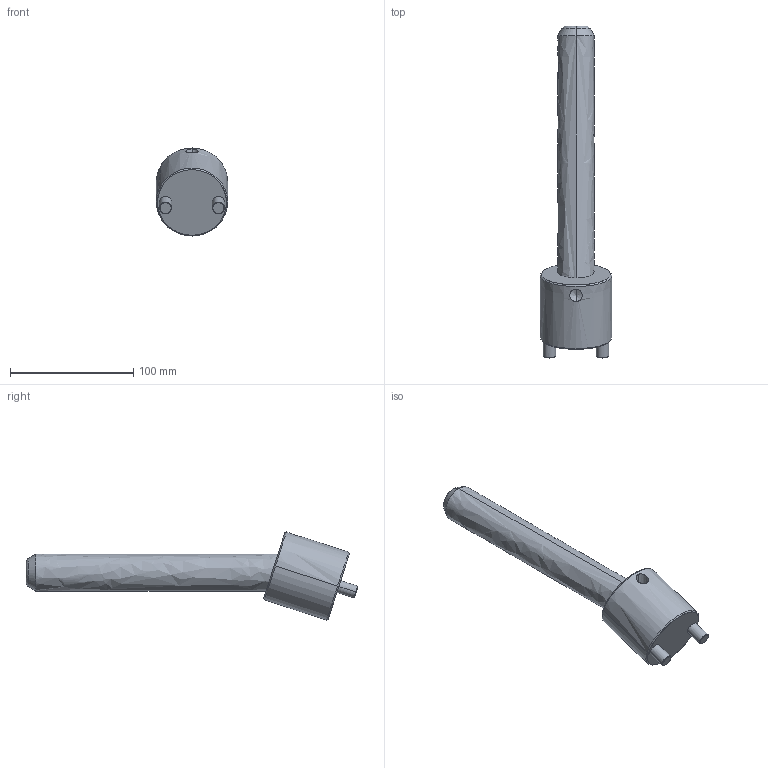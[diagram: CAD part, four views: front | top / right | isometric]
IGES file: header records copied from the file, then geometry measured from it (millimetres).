
Start section: START RECORD GO HERE.
Global section: file name: CI1830200.igs; native system: DASSAULT SYSTEMES CATIA V5 R20 - www.3ds.com; preprocessor: CATIA Version 5 Release 20 ; author: r.borello; organization: CFTORINO; date: 20190624.094811; units: millimetre
Bounding box: 58 x 269.82 x 71.54 mm (x, y, z)
Surface area: 44900 mm2 (no closed solid volume)
Topology: 0 solids, 0 shells, 39 faces, 162 edges, 160 vertices
Faces by surface type: revolution 32, plane 7
